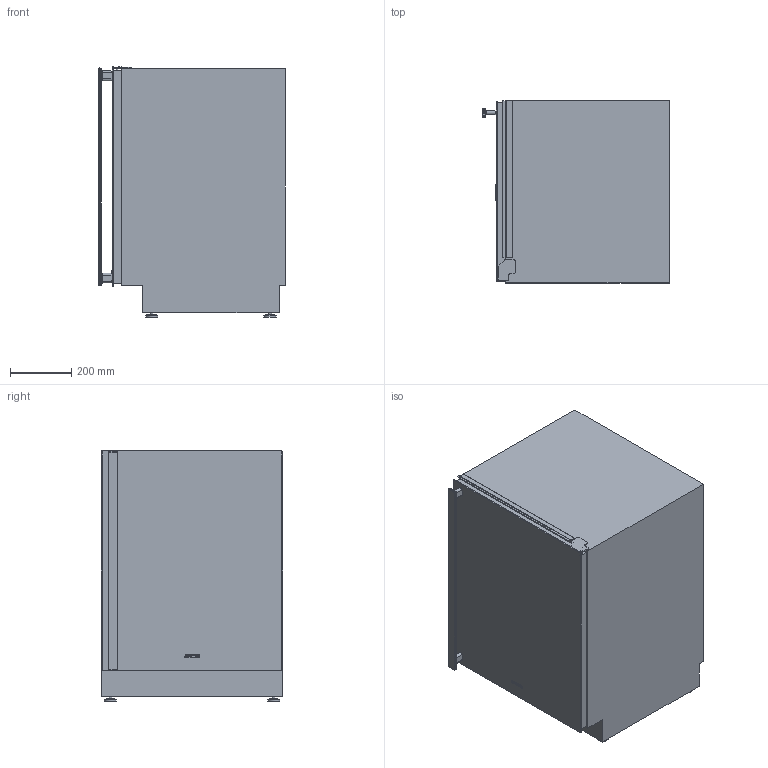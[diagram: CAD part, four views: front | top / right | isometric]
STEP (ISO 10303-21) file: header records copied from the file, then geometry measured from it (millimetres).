
FILE_DESCRIPTION(/* description */ (''),/* implementation_level */ '2;1');
FILE_NAME(/* name */ 'CVI638N.stp',/* time_stamp */ '2017-09-25T11:48:44+02:00',/* author */ (''),/* organization */ (''),/* preprocessor_version */ 'ST-DEVELOPER v16',/* originating_system */ 'SIEMENS PLM Software NX 11.0',/* authorisation */ '');
FILE_SCHEMA (('AUTOMOTIVE_DESIGN { 1 0 10303 214 3 1 1 1 }'));
Length unit declared in the file: millimetre
Products named in the file (1): gras7EA07D2Atphf
Bounding box: 610.7 x 595 x 818.45 mm (x, y, z)
Volume: 263412445.7 mm3; surface area: 4304991.6 mm2
Topology: 15 solids, 16 shells, 202 faces, 448 edges, 290 vertices
Faces by surface type: plane 127, cylinder 56, extrusion 11, torus 4, cone 4
Full cylindrical faces by diameter (mm): 4.608 x6, 6 x1, 8 x4, 10.58 x4, 40 x4
Entity records: 5805 total; most frequent: CARTESIAN_POINT 1220, DIRECTION 913, ORIENTED_EDGE 844, EDGE_CURVE 424, AXIS2_PLACEMENT_3D 309, VECTOR 295, VERTEX_POINT 290, LINE 284
